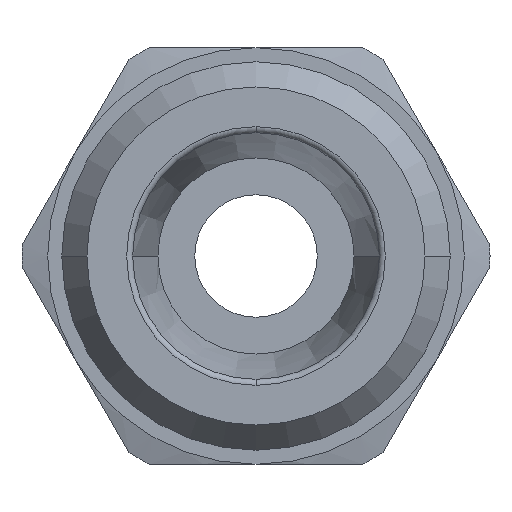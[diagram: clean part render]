
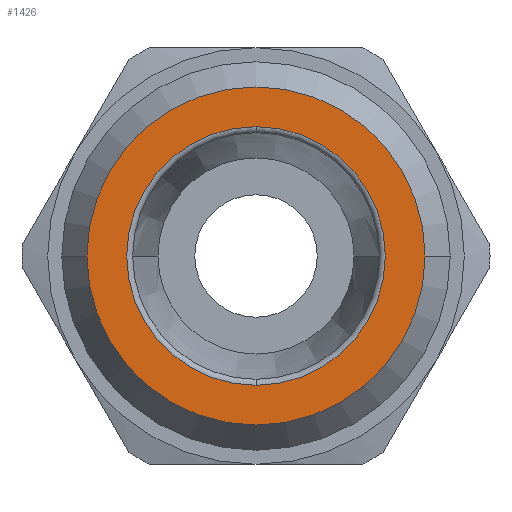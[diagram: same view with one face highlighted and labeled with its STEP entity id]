
A CAD part, left-side view. The second image highlights one B-rep face of the part: STEP entity #1426.
In plain terms, the highlighted planar face has unit normal (-1, 0, 0) as drawn and (0, 0, 1) by its records, which use the part's own axes.
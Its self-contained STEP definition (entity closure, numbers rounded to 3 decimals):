
#901=CARTESIAN_POINT('',(0.,-6.9,16.));
#902=VERTEX_POINT('',#901);
#909=CARTESIAN_POINT('',(0.,6.9,16.));
#910=VERTEX_POINT('',#909);
#911=CARTESIAN_POINT('',(0.,0.,16.0));
#912=DIRECTION('',(0.0,0.0,-1.0));
#913=DIRECTION('',(0.0,-1.0,0.0));
#914=AXIS2_PLACEMENT_3D('',#911,#912,#913);
#915=CIRCLE('',#914,6.9);
#916=EDGE_CURVE('',#902,#910,#915,.T.);
#974=CARTESIAN_POINT('',(5.277,0.,16.0));
#975=VERTEX_POINT('',#974);
#993=CARTESIAN_POINT('',(-5.277,0.,16.0));
#994=VERTEX_POINT('',#993);
#1002=CARTESIAN_POINT('',(0.,-5.277,16.));
#1003=VERTEX_POINT('',#1002);
#1004=CARTESIAN_POINT('',(0.,0.,16.0));
#1005=DIRECTION('',(0.0,0.0,1.0));
#1006=DIRECTION('',(0.0,1.0,0.0));
#1007=AXIS2_PLACEMENT_3D('',#1004,#1005,#1006);
#1008=CIRCLE('',#1007,5.277);
#1009=EDGE_CURVE('',#994,#1003,#1008,.T.);
#1011=CARTESIAN_POINT('',(0.,0.,16.0));
#1012=DIRECTION('',(0.0,0.0,1.0));
#1013=DIRECTION('',(0.0,1.0,0.0));
#1014=AXIS2_PLACEMENT_3D('',#1011,#1012,#1013);
#1015=CIRCLE('',#1014,5.277);
#1016=EDGE_CURVE('',#1003,#975,#1015,.T.);
#1387=CARTESIAN_POINT('',(0.,0.,16.0));
#1388=DIRECTION('',(0.0,0.0,1.0));
#1389=DIRECTION('',(0.0,1.0,0.0));
#1390=AXIS2_PLACEMENT_3D('',#1387,#1388,#1389);
#1391=CIRCLE('',#1390,5.277);
#1392=EDGE_CURVE('',#975,#994,#1391,.T.);
#1406=CARTESIAN_POINT('',(0.,-5.988,16.));
#1407=DIRECTION('',(0.0,0.0,1.0));
#1408=DIRECTION('',(-1.0,0.0,0.0));
#1409=AXIS2_PLACEMENT_3D('',#1406,#1407,#1408);
#1410=PLANE('',#1409);
#1411=ORIENTED_EDGE('',*,*,#916,.F.);
#1412=CARTESIAN_POINT('',(0.,0.,16.0));
#1413=DIRECTION('',(0.0,0.0,-1.0));
#1414=DIRECTION('',(0.0,-1.0,0.0));
#1415=AXIS2_PLACEMENT_3D('',#1412,#1413,#1414);
#1416=CIRCLE('',#1415,6.9);
#1417=EDGE_CURVE('',#910,#902,#1416,.T.);
#1418=ORIENTED_EDGE('',*,*,#1417,.F.);
#1419=EDGE_LOOP('',(#1411,#1418));
#1420=FACE_OUTER_BOUND('',#1419,.T.);
#1421=ORIENTED_EDGE('',*,*,#1016,.F.);
#1422=ORIENTED_EDGE('',*,*,#1009,.F.);
#1423=ORIENTED_EDGE('',*,*,#1392,.F.);
#1424=EDGE_LOOP('',(#1421,#1422,#1423));
#1425=FACE_BOUND('',#1424,.T.);
#1426=ADVANCED_FACE('',(#1420,#1425),#1410,.T.);
